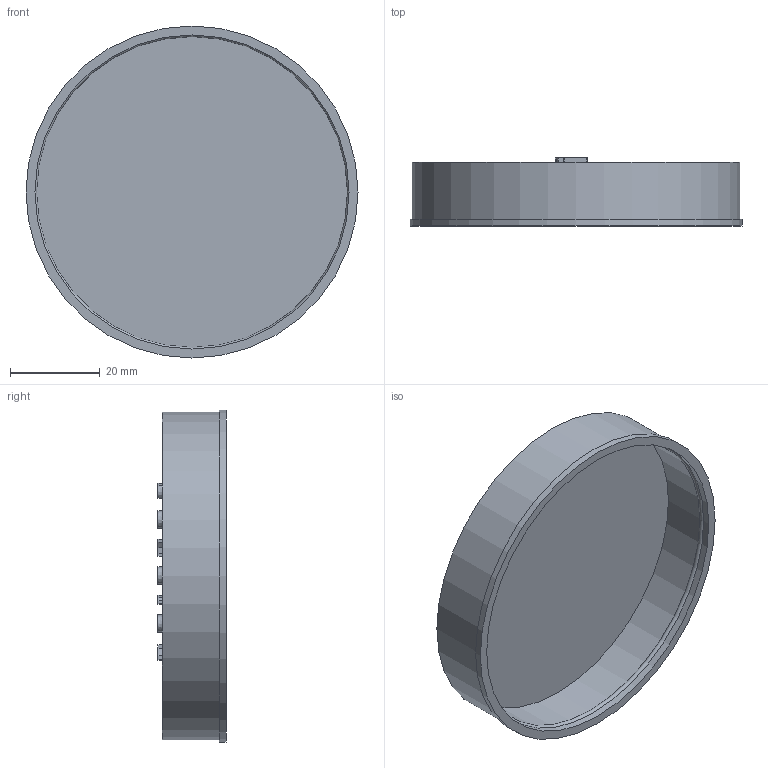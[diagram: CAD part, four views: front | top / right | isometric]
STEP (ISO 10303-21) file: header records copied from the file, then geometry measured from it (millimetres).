
FILE_DESCRIPTION( ( 'Unknown' ), '1' );
FILE_NAME( 'X:/Daten ( aktueller Bestand )/Projekte und Zeichnungen/Solid Edge/18 CF Dichtungs-Verbindungsteile/Flanschkappe Kunststoff/7082.stp', 'Unknown', ( 'Unknown' ), ( 'Unknown' ), 'XStep 1.0', 'Unknown', ' ' );
FILE_SCHEMA( ( 'automotive_design' ) );
Length unit declared in the file: millimetre
Products named in the file (1): 1
Bounding box: 74 x 15.2 x 74 mm (x, y, z)
Volume: 10852.2 mm3; surface area: 14895.2 mm2
Topology: 1 solids, 1 shells, 67 faces, 157 edges, 104 vertices
Faces by surface type: plane 49, extrusion 13, cylinder 4, torus 1
Full cylindrical faces by diameter (mm): 70 x2, 73 x1, 74 x1
Entity records: 2954 total; most frequent: CARTESIAN_POINT 1076, ORIENTED_EDGE 296, DIRECTION 183, EDGE_CURVE 148, B_SPLINE_CURVE_WITH_KNOTS 109, VERTEX_POINT 104, EDGE_LOOP 88, FACE_OUTER_BOUND 76
